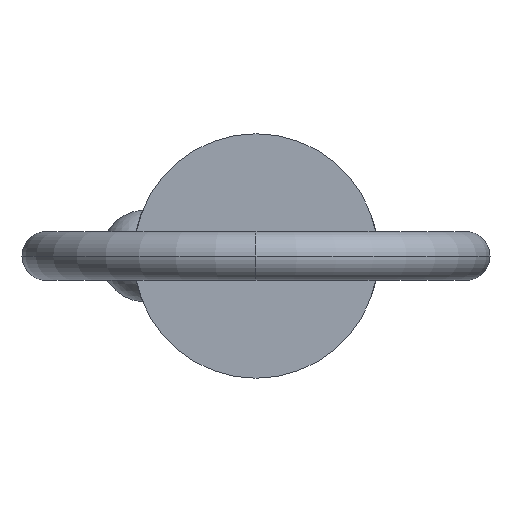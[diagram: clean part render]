
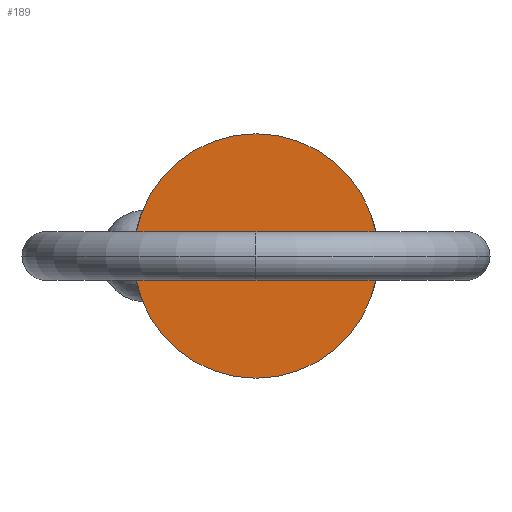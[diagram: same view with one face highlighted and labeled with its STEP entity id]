
A CAD part, left-side view. The second image highlights one B-rep face of the part: STEP entity #189.
In plain terms, the highlighted planar face has unit normal (-1, 0, 0).
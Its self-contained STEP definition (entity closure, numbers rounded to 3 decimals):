
#7 = CARTESIAN_POINT ( 'NONE',  ( 0., 0., 11.115 ) ) ;
#13 = DIRECTION ( 'NONE',  ( 0., 0., 1. ) ) ;
#26 = AXIS2_PLACEMENT_3D ( 'NONE', #270, #123, #477 ) ;
#66 = VERTEX_POINT ( 'NONE', #138 ) ;
#67 = DIRECTION ( 'NONE',  ( 0., 0., -1. ) ) ;
#71 = FACE_OUTER_BOUND ( 'NONE', #572, .T. ) ;
#73 = EDGE_CURVE ( 'NONE', #66, #210, #627, .T. ) ;
#123 = DIRECTION ( 'NONE',  ( 1., 0., 0. ) ) ;
#138 = CARTESIAN_POINT ( 'NONE',  ( 0., 0., -11.115 ) ) ;
#189 = ADVANCED_FACE ( 'NONE', ( #71 ), #786, .T. ) ;
#210 = VERTEX_POINT ( 'NONE', #7 ) ;
#270 = CARTESIAN_POINT ( 'NONE',  ( 0., 0., 0. ) ) ;
#280 = CARTESIAN_POINT ( 'NONE',  ( 0., 0., 0. ) ) ;
#292 = ORIENTED_EDGE ( 'NONE', *, *, #73, .F. ) ;
#415 = EDGE_CURVE ( 'NONE', #210, #66, #453, .T. ) ;
#453 = CIRCLE ( 'NONE', #26, 11.115 ) ;
#477 = DIRECTION ( 'NONE',  ( 0., 0., -1. ) ) ;
#497 = ORIENTED_EDGE ( 'NONE', *, *, #415, .F. ) ;
#513 = AXIS2_PLACEMENT_3D ( 'NONE', #568, #848, #67 ) ;
#568 = CARTESIAN_POINT ( 'NONE',  ( 0., 0., 0. ) ) ;
#572 = EDGE_LOOP ( 'NONE', ( #292, #497 ) ) ;
#627 = CIRCLE ( 'NONE', #513, 11.115 ) ;
#713 = DIRECTION ( 'NONE',  ( -1., 0., 0. ) ) ;
#786 = PLANE ( 'NONE',  #910 ) ;
#848 = DIRECTION ( 'NONE',  ( 1., 0., 0. ) ) ;
#910 = AXIS2_PLACEMENT_3D ( 'NONE', #280, #713, #13 ) ;
